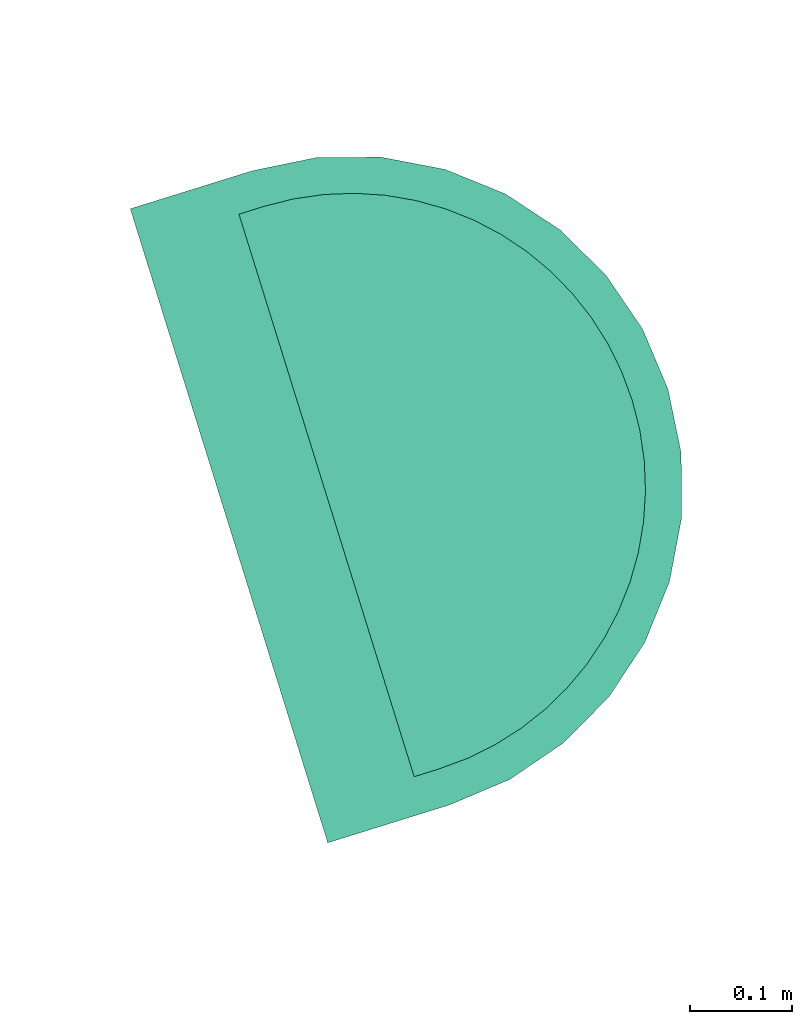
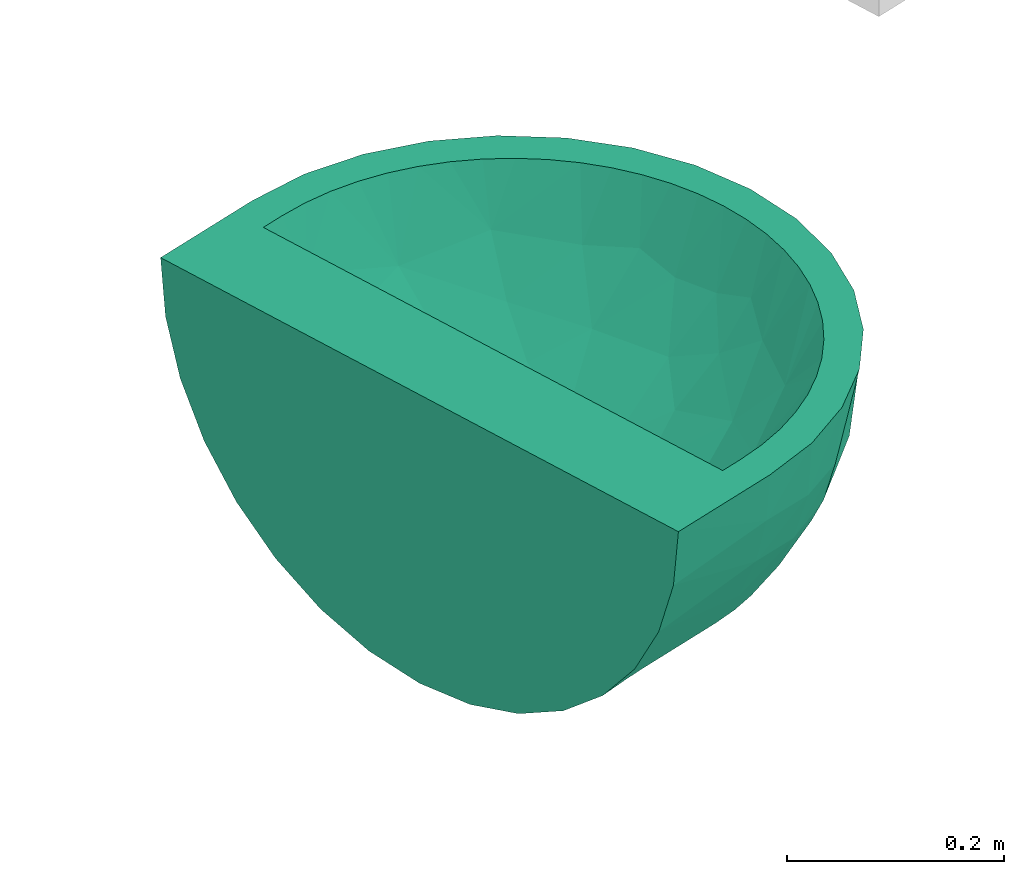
# Not in any storey, part 9 of 20: 1 sanitary terminal.
"""IFC4 model written with IfcOpenShell, lengths in metres."""

from ifc_helpers import new_model, entity, si_unit, converted_unit, direction, frame, origin, place, context, subcontext, project, polygons, source, transform, mapped, material, type_object, element, save


model = new_model("IFC4")

# Units and contexts
model_context = context("Model", 3, precision=1e-05, world=origin(), true_north=direction((6.12323399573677e-17, 1.0)))
body_context = subcontext(model_context, "Body", "Model", "MODEL_VIEW")
ifc_project = project(units=[si_unit("LENGTHUNIT", "METRE"), si_unit("AREAUNIT", "SQUARE_METRE"), si_unit("VOLUMEUNIT", "CUBIC_METRE"), converted_unit("PLANEANGLEUNIT", "DEGREE", entity("IfcPlaneAngleMeasure", 0.0174532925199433), si_unit("PLANEANGLEUNIT", "RADIAN"), dimensions=[0, 0, 0, 0, 0, 0, 0])], contexts=[model_context])

# Sanitary terminal
ifc_material = material(Name="<Unnamed>")
sanitary_terminal_type = type_object("IfcSanitaryTerminalType", Name="NLRS_74_PF_WB_wastafel_gen:wastafel", PredefinedType="SINK", material=ifc_material)
shared_shape = source(origin(), body_context, "Body", "Tessellation", [
    polygons([(-0.303081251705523, -0.175000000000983, -3.7), (-0.296836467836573, -0.238404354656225, -3.7), (-0.278342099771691, -0.299372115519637, -3.7), (-0.248308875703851, -0.355560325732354, -3.7), (-0.207890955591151, -0.404809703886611, -3.7), (-0.158641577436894, -0.44522762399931, -3.7), (-0.102453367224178, -0.475260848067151, -3.7), (-0.0414856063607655, -0.493755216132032, -3.7), (0.021918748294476, -0.500000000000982, -3.7), (0.021918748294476, -0.463314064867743, -3.7), (-0.00821701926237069, -0.461734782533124, -3.7), (-0.038024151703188, -0.457013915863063, -3.7), (-0.0671705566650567, -0.449204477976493, -3.7), (-0.0953421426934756, -0.438391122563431, -3.7), (-0.122231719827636, -0.424691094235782, -3.7), (-0.147543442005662, -0.408254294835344, -3.7), (-0.170998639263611, -0.389261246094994, -3.7), (-0.192339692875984, -0.367920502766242, -3.7), (-0.21133265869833, -0.344466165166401, -3.7), (-0.227769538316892, -0.319155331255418, -3.7), (-0.241470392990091, -0.292265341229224, -3.7), (-0.252285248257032, -0.264090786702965, -3.7), (-0.260095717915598, -0.234940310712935, -3.7), (-0.264816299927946, -0.205133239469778, -3.7), (-0.266395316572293, -0.175000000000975, -3.7), (-0.266395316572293, -0.150000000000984, -3.7), (0.021918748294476, -0.150000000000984, -3.7), (0.021918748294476, -0.0499999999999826, -3.7), (-0.303081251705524, -0.0499999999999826, -3.7), (0.346918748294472, -0.175000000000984, -3.7), (0.346918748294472, -0.0499999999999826, -3.7), (0.310232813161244, -0.150000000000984, -3.7), (0.310232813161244, -0.175000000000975, -3.7), (0.308653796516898, -0.205133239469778, -3.7), (0.303933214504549, -0.234940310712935, -3.7), (0.296122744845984, -0.264090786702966, -3.7), (0.285307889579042, -0.292265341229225, -3.7), (0.271607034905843, -0.319155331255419, -3.7), (0.255170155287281, -0.344466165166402, -3.7), (0.236177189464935, -0.367920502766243, -3.7), (0.214836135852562, -0.389261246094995, -3.7), (0.191380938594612, -0.408254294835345, -3.7), (0.166069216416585, -0.424691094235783, -3.7), (0.139179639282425, -0.438391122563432, -3.7), (0.111008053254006, -0.449204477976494, -3.7), (0.0818616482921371, -0.457013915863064, -3.7), (0.0520545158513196, -0.461734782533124, -3.7), (0.0853231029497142, -0.493755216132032, -3.7), (0.146290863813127, -0.475260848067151, -3.7), (0.202479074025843, -0.44522762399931, -3.7), (0.2517284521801, -0.404809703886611, -3.7), (0.292146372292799, -0.355560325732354, -3.7), (0.32217959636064, -0.299372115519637, -3.7), (0.340673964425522, -0.238404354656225, -3.7), (-0.296836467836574, -0.0499999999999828, -3.76340435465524), (-0.278342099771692, -0.049999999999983, -3.82437211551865), (-0.248308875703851, -0.0499999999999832, -3.88056032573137), (-0.207890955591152, -0.0499999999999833, -3.92980970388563), (-0.158641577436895, -0.0499999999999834, -3.97022762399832), (-0.102453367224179, -0.0499999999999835, -4.00026084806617), (-0.0414856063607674, -0.0499999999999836, -4.01875521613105), (0.0219187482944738, -0.0499999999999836, -4.025), (0.085323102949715, -0.0499999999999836, -4.01875521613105), (0.146290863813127, -0.0499999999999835, -4.00026084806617), (0.202479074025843, -0.0499999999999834, -3.97022762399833), (0.2517284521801, -0.0499999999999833, -3.92980970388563), (0.292146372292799, -0.0499999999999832, -3.88056032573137), (0.32217959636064, -0.049999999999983, -3.82437211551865), (0.340673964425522, -0.0499999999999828, -3.76340435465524), (0.34246627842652, -0.175000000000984, -3.75361232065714), (0.329230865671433, -0.175000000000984, -3.8057556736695), (0.307575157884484, -0.175000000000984, -3.85500134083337), (0.278092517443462, -0.175000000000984, -3.9), (0.278092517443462, -0.0749999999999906, -3.9), (0.237763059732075, -0.0749999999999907, -3.94297372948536), (0.190336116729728, -0.0749999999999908, -3.97795789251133), (0.137371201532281, -0.0749999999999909, -4.00380212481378), (0.0806099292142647, -0.074999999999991, -4.01965660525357), (0.0219187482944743, -0.074999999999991, -4.025), (-0.0367724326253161, -0.074999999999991, -4.01965660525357), (-0.0935337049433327, -0.0749999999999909, -4.00380212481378), (-0.146498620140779, -0.0749999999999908, -3.97795789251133), (-0.193925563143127, -0.0749999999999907, -3.94297372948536), (-0.234255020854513, -0.0749999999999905, -3.9), (-0.234255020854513, -0.175000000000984, -3.9), (-0.263737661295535, -0.175000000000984, -3.85500134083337), (-0.285393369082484, -0.175000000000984, -3.8057556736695), (-0.298628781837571, -0.175000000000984, -3.75361232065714), (-0.228099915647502, -0.0499999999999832, -3.9051850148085), (-0.183266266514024, -0.0499999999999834, -3.95001866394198), (-0.130547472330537, -0.0499999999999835, -3.98524423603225), (-0.0719694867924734, -0.0499999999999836, -4.00950803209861), (0.115806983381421, -0.0499999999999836, -4.00950803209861), (0.174384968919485, -0.0499999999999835, -3.98524423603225), (0.227103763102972, -0.0499999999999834, -3.95001866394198), (0.27193741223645, -0.0499999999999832, -3.9051850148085), (0.257927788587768, -0.0749999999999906, -3.92148686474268), (0.214049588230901, -0.0749999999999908, -3.96046581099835), (-0.170212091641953, -0.0749999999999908, -3.96046581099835), (-0.21409029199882, -0.0749999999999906, -3.92148686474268), (-0.120016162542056, -0.0749999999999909, -3.99088000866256), (-0.0651530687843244, -0.0749999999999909, -4.01172936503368), (0.108990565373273, -0.0749999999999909, -4.01172936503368), (0.163853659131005, -0.0749999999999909, -3.99088000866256), (-0.232753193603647, -0.202698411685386, -3.9), (-0.228265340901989, -0.230071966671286, -3.9), (-0.220844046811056, -0.256799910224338, -3.9), (-0.210576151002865, -0.282569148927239, -3.9), (-0.197581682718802, -0.307077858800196, -3.9), (-0.182012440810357, -0.33003893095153, -3.9), (-0.164050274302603, -0.351183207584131, -3.9), (-0.1439051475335, -0.370262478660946, -3.9), (-0.121813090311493, -0.387052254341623, -3.9), (-0.0980340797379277, -0.401354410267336, -3.9), (-0.0728496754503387, -0.412999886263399, -3.9), (-0.0465597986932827, -0.421851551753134, -3.9), (-0.0194777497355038, -0.427806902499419, -3.9), (0.00807674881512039, -0.43079952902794, -3.9), (0.0357845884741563, -0.430798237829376, -3.9), (0.0633306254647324, -0.427804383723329, -3.9), (0.0904016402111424, -0.421850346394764, -3.9), (0.116683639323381, -0.413001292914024, -3.9), (0.141864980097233, -0.401357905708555, -3.9), (0.165644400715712, -0.38705644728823, -3.9), (0.18773840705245, -0.370266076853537, -3.9), (0.207885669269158, -0.351185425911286, -3.9), (0.225849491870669, -0.330039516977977, -3.9), (0.24141970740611, -0.307076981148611, -3.9), (0.254414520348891, -0.282567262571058, -3.9), (0.264682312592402, -0.256797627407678, -3.9), (0.272103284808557, -0.230069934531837, -3.9), (0.27659082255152, -0.202697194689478, -3.9), (-0.257045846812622, -0.297316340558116, -3.81332461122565), (0.300884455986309, -0.297313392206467, -3.81332505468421), (-0.00978342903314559, -0.496877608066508, -3.7), (-0.205655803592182, -0.378737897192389, -3.81102113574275), (0.249493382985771, -0.378737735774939, -3.81102126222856), (0.0536209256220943, -0.496877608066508, -3.7), (0.0219337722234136, -0.481913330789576, -3.80690747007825), (-0.0719694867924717, -0.484508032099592, -3.7), (0.11580698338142, -0.484508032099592, -3.7), (-0.0425022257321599, -0.471258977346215, -3.81707073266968), (-0.165040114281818, -0.416191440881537, -3.81179477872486), (0.20887408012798, -0.416198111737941, -3.81178629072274), (0.0863501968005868, -0.471256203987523, -3.8170719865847), (-0.23446246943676, -0.305265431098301, -3.85140868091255), (0.278301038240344, -0.305263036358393, -3.85140892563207), (-0.120243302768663, -0.443687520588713, -3.81498681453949), (0.164074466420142, -0.443691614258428, -3.81498507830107), (-0.233336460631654, -0.358005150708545, -3.78353976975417), (0.277175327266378, -0.358003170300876, -3.78353992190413), (-0.290060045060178, -0.240925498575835, -3.76283359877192), (0.333897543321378, -0.240925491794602, -3.76283359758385), (-0.275008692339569, -0.237028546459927, -3.81666856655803), (-0.254394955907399, -0.239447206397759, -3.85850014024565), (-0.272362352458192, -0.296908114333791, -3.76451391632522), (0.31884634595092, -0.237026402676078, -3.81666930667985), (0.298232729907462, -0.239444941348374, -3.85850057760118), (0.316201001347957, -0.296905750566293, -3.76451312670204), (-0.0755829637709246, -0.474402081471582, -3.78047862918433), (-0.0690330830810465, -0.449635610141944, -3.84808121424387), (0.119420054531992, -0.474406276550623, -3.7804635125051), (0.112885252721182, -0.449636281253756, -3.84807095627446), (-0.228099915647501, -0.380185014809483, -3.7), (0.27193741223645, -0.380185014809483, -3.7), (-0.183266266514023, -0.425018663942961, -3.7), (0.227103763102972, -0.425018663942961, -3.7), (-0.130547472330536, -0.460244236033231, -3.7), (0.174384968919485, -0.460244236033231, -3.7), (0.278352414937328, -0.175000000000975, -3.74966665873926), (0.238015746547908, -0.175000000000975, -3.79274902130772), (0.190552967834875, -0.175000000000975, -3.82782638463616), (0.137529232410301, -0.175000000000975, -3.85374202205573), (0.0806930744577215, -0.175000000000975, -3.86964132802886), (0.0219187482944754, -0.175000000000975, -3.875), (-0.0368555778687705, -0.175000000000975, -3.86964132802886), (-0.0936917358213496, -0.175000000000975, -3.85374202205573), (-0.146715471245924, -0.175000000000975, -3.82782638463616), (-0.194178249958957, -0.175000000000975, -3.79274902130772), (-0.234514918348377, -0.175000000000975, -3.74966665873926), (-0.119627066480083, -0.322173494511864, -3.80284332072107), (0.163464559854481, -0.32217349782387, -3.8028433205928), (-0.200517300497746, -0.262511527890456, -3.77020203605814), (0.244354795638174, -0.262511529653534, -3.77020203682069), (-0.162633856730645, -0.347041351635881, -3.75485875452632), (0.206471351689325, -0.347041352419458, -3.75485875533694), (0.00220012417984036, -0.367185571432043, -3.81134437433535), (-0.0912046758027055, -0.393814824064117, -3.76200981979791), (0.135042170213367, -0.393814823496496, -3.76200982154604), (0.0498196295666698, -0.280825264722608, -3.85601887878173), (-0.0620730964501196, -0.266760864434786, -3.85025041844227), (0.160889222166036, -0.248929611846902, -3.83433540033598), (0.0405814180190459, -0.417340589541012, -3.76574926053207), (0.0863370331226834, -0.354389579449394, -3.81323879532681), (-0.00909478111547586, -0.420066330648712, -3.76120050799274), (-0.0478694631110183, -0.381606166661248, -3.79097405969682), (-0.0422183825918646, -0.327597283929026, -3.82968821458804), (-0.0074080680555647, -0.286981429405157, -3.8536858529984), (-0.00719351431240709, -0.22811728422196, -3.869305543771), (-0.0504034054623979, -0.422275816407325, -3.7481140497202), (0.115439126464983, -0.298042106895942, -3.83590134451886), (0.101584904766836, -0.237319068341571, -3.85886022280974), (-0.144773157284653, -0.251326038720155, -3.81835264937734), (0.0860600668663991, -0.418745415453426, -3.75518056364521), (0.278341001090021, -0.150000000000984, -3.74968131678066), (0.238003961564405, -0.150000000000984, -3.79275951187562), (0.19054233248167, -0.150000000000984, -3.82783283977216), (0.137520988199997, -0.150000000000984, -3.85374515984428), (0.080687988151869, -0.150000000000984, -3.86964226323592), (0.021917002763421, -0.150000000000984, -3.87499999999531), (-0.0368543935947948, -0.150000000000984, -3.869641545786), (-0.0936885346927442, -0.150000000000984, -3.85374324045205), (-0.146711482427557, -0.150000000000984, -3.8278288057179), (-0.19417475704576, -0.150000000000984, -3.79275213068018), (-0.234512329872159, -0.150000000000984, -3.74966998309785)], [[[9, 138, 48, 141, 49, 169, 50, 167, 51, 165, 52, 53, 54, 30, 31, 28, 29, 1, 2, 3, 4, 164, 5, 166, 6, 168, 7, 140, 8, 135], [10, 11, 12, 13, 14, 15, 16, 17, 18, 19, 20, 21, 22, 23, 24, 25, 26, 27, 32, 33, 34, 35, 36, 37, 38, 39, 40, 41, 42, 43, 44, 45, 46, 47]], [[1, 29, 88]], [[87, 88, 55]], [[56, 86, 87]], [[58, 100, 89]], [[93, 103, 63]], [[91, 60, 101]], [[97, 75, 66]], [[61, 102, 92]], [[61, 62, 80]], [[84, 85, 86]], [[94, 65, 76]], [[89, 84, 57]], [[86, 56, 57]], [[88, 29, 55]], [[55, 56, 87]], [[86, 57, 84]], [[82, 59, 91]], [[92, 81, 60]], [[58, 90, 83]], [[59, 82, 99]], [[93, 64, 77]], [[59, 99, 90]], [[84, 89, 100]], [[100, 58, 83]], [[81, 101, 60]], [[62, 79, 80]], [[103, 93, 77]], [[98, 76, 65]], [[98, 95, 75]], [[95, 66, 75]], [[101, 82, 91]], [[104, 94, 76]], [[69, 70, 71]], [[72, 73, 74]], [[71, 72, 68]], [[80, 102, 61]], [[78, 79, 62]], [[30, 70, 31]], [[83, 90, 99]], [[78, 63, 103]], [[104, 77, 64]], [[65, 95, 98]], [[102, 81, 92]], [[62, 63, 78]], [[96, 67, 74]], [[97, 66, 96]], [[67, 72, 74]], [[72, 67, 68]], [[68, 69, 71]], [[69, 31, 70]], [[97, 96, 74]], [[94, 104, 64]], [[28, 31, 69, 68, 67, 96, 66, 95, 65, 94, 64, 93, 63, 62, 61, 92, 60, 91, 59, 90, 58, 89, 57, 56, 55, 29]], [[6, 136, 143]], [[52, 159, 53]], [[158, 157, 134]], [[111, 112, 143]], [[136, 150, 146]], [[143, 110, 111]], [[129, 147, 128]], [[110, 143, 136]], [[148, 143, 112]], [[159, 157, 153]], [[161, 115, 116]], [[139, 135, 142]], [[53, 159, 153]], [[142, 117, 118]], [[143, 148, 7]], [[8, 160, 142]], [[134, 151, 147]], [[148, 161, 160]], [[114, 148, 113]], [[7, 148, 140]], [[8, 140, 160]], [[130, 131, 158]], [[136, 146, 109]], [[152, 3, 2]], [[160, 140, 148]], [[87, 152, 88]], [[154, 133, 156]], [[1, 88, 2]], [[2, 88, 152]], [[165, 51, 151]], [[147, 151, 137]], [[4, 3, 156]], [[142, 161, 116]], [[139, 142, 118]], [[107, 155, 106]], [[146, 107, 108]], [[124, 125, 149]], [[166, 5, 150]], [[155, 86, 85]], [[118, 119, 139]], [[86, 154, 87]], [[154, 86, 155]], [[148, 114, 161]], [[139, 145, 138]], [[107, 146, 155]], [[136, 109, 110]], [[150, 164, 133]], [[85, 105, 155]], [[142, 160, 161]], [[48, 138, 145]], [[158, 73, 72]], [[146, 108, 109]], [[9, 135, 139]], [[9, 139, 138]], [[119, 145, 139]], [[8, 142, 135]], [[120, 121, 145]], [[124, 149, 123]], [[49, 141, 149]], [[137, 50, 144]], [[156, 152, 154]], [[133, 155, 146]], [[137, 144, 127]], [[112, 113, 148]], [[162, 145, 163]], [[134, 165, 151]], [[149, 125, 144]], [[127, 128, 137]], [[120, 145, 119]], [[155, 133, 154]], [[48, 145, 162]], [[152, 156, 3]], [[133, 146, 150]], [[168, 6, 143, 7]], [[144, 125, 126]], [[144, 126, 127]], [[163, 145, 121]], [[151, 167, 137]], [[147, 137, 128]], [[142, 116, 117]], [[157, 158, 72]], [[158, 147, 130]], [[141, 48, 162]], [[158, 134, 147]], [[147, 129, 130]], [[72, 71, 157]], [[158, 132, 73]], [[87, 154, 152]], [[70, 54, 153]], [[163, 122, 123]], [[167, 50, 137]], [[133, 164, 156]], [[54, 70, 30]], [[71, 70, 153]], [[136, 166, 150]], [[159, 134, 157]], [[158, 131, 132]], [[53, 153, 54]], [[169, 49, 144, 50]], [[105, 106, 155]], [[150, 5, 164]], [[165, 134, 159]], [[71, 153, 157]], [[114, 115, 161]], [[162, 149, 141]], [[163, 123, 149]], [[162, 163, 149]], [[122, 163, 121]], [[4, 156, 164]], [[159, 52, 165]], [[166, 136, 6]], [[167, 151, 51]], [[149, 144, 49]], [[185, 16, 15]], [[198, 187, 190]], [[185, 18, 17]], [[190, 202, 199]], [[187, 198, 197]], [[20, 185, 183]], [[15, 14, 188]], [[181, 197, 191]], [[193, 195, 10]], [[204, 194, 193]], [[177, 203, 191]], [[196, 187, 197]], [[196, 200, 195]], [[10, 195, 11]], [[185, 15, 188]], [[187, 196, 195]], [[200, 196, 188]], [[191, 197, 198]], [[22, 183, 23]], [[13, 200, 188]], [[180, 24, 23]], [[190, 194, 201]], [[202, 201, 192]], [[25, 24, 180]], [[183, 22, 21]], [[200, 12, 11]], [[179, 183, 203]], [[178, 203, 177]], [[201, 202, 190]], [[180, 183, 179]], [[23, 183, 180]], [[19, 18, 185]], [[20, 183, 21]], [[172, 184, 171]], [[13, 188, 14]], [[185, 20, 19]], [[190, 199, 198]], [[16, 185, 17]], [[181, 188, 196]], [[191, 199, 176]], [[193, 187, 195]], [[194, 189, 182]], [[189, 43, 186]], [[184, 192, 182]], [[173, 174, 202]], [[45, 44, 189]], [[204, 47, 46]], [[186, 43, 42]], [[186, 41, 40]], [[181, 196, 197]], [[38, 184, 186]], [[187, 193, 194]], [[45, 189, 204]], [[39, 38, 186]], [[182, 201, 194]], [[186, 42, 41]], [[199, 175, 176]], [[184, 38, 37]], [[189, 44, 43]], [[177, 191, 176]], [[192, 184, 172]], [[172, 173, 192]], [[186, 184, 182]], [[203, 183, 181]], [[191, 198, 199]], [[185, 188, 181]], [[184, 170, 171]], [[11, 195, 200]], [[12, 200, 13]], [[184, 35, 170]], [[170, 34, 33]], [[34, 170, 35]], [[193, 10, 47]], [[186, 40, 39]], [[175, 199, 202]], [[36, 35, 184]], [[36, 184, 37]], [[183, 185, 181]], [[201, 182, 192]], [[204, 46, 45]], [[187, 194, 190]], [[189, 186, 182]], [[173, 202, 192]], [[202, 174, 175]], [[191, 203, 181]], [[179, 203, 178]], [[194, 204, 189]], [[47, 204, 193]], [[180, 26, 25]], [[179, 215, 180]], [[213, 178, 177]], [[179, 178, 214]], [[212, 177, 176]], [[215, 26, 180]], [[214, 215, 179]], [[210, 211, 176]], [[212, 213, 177]], [[211, 212, 176]], [[214, 178, 213]], [[176, 175, 210]], [[209, 175, 174]], [[173, 208, 174]], [[206, 172, 171]], [[173, 172, 207]], [[205, 171, 170]], [[209, 174, 208]], [[208, 173, 207]], [[171, 205, 206]], [[206, 207, 172]], [[205, 170, 32]], [[33, 32, 170]], [[175, 209, 210]], [[32, 27, 26, 215, 214, 213, 212, 211, 210, 209, 208, 207, 206, 205]], [[82, 101, 81, 102, 80, 79, 78, 103, 77, 104, 76, 98, 75, 97, 74, 84, 100, 83, 99]], [[73, 132, 131, 130, 129, 128, 127, 126, 125, 124, 123, 122, 121, 120, 119, 118, 117, 116, 115, 114, 113, 112, 111, 110, 109, 108, 107, 106, 105, 85, 84, 74]]], closed=True),
])
placement_1 = place(None, frame((13.1347999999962, 11.9886000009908, 0.0), z_axis=(0.0, 0.0, 1.0), x_axis=(0.954770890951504, 0.297342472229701, 0.0)))
placement_2 = place(placement_1, origin())
placement_3 = place(placement_2, frame((0.0, 0.0, 3.9)))
placement_4 = place(placement_3, origin())
sanitary_terminal_placement = place(placement_4, frame((9.72500000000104, 17.9530812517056, 4.525), z_axis=(0.0, 0.0, 1.0), x_axis=(0.0, 1.0, 0.0)))
element("IfcSanitaryTerminal", 1, at=sanitary_terminal_placement, type_object=sanitary_terminal_type, material=ifc_material, Name="NLRS_74_PF_WB_wastafel_gen:wastafel", ObjectType="NLRS_74_PF_WB_wastafel_gen:wastafel", PredefinedType="SINK", context=body_context, shape_type="MappedRepresentation", body=[
    mapped(shared_shape, transform((0.0, 0.0, 0.0), scale=1.0)),
])

save(model, "model.ifc")
